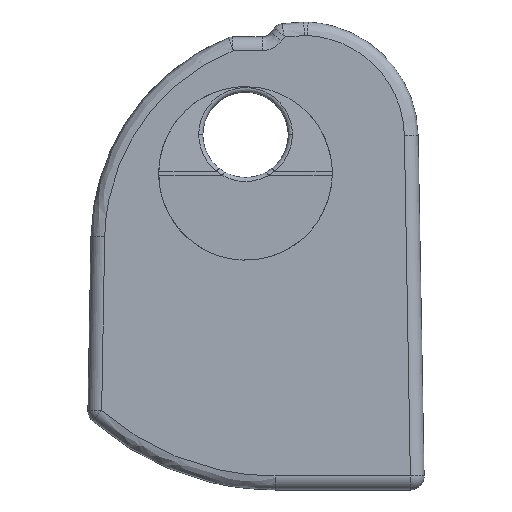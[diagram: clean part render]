
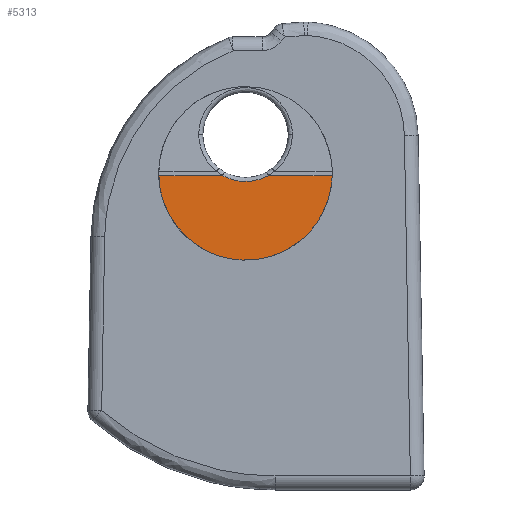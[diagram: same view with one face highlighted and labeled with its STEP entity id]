
A CAD part, front view. The second image highlights one B-rep face of the part: STEP entity #5313.
In plain terms, the highlighted planar face has unit normal (0, -1, 0.018).
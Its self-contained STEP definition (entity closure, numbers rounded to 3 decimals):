
#269=CARTESIAN_POINT('',(-3.149,-1.647,
-0.079));
#2103=CARTESIAN_POINT('',(0.833,-1.647,
-0.079));
#2134=CARTESIAN_POINT('',(0.833,-1.647,
-0.079));
#2135=CARTESIAN_POINT('',(0.748,-1.648,
-0.127));
#2136=CARTESIAN_POINT('',(0.572,-1.65,
-0.207));
#2137=CARTESIAN_POINT('',(0.298,-1.651,
-0.279));
#2138=CARTESIAN_POINT('',(0.018,-1.651,
-0.305));
#2139=CARTESIAN_POINT('',(-0.275,-1.651,
-0.284));
#2140=CARTESIAN_POINT('',(-0.567,-1.65,
-0.209));
#2141=CARTESIAN_POINT('',(-0.746,-1.648,
-0.128));
#2142=CARTESIAN_POINT('',(-0.833,-1.647,
-0.079));
#2147=DIRECTION('',(-1.,0.,0.));
#2148=VECTOR('',#2147,2.316);
#2149=CARTESIAN_POINT('',(3.149,-1.647,
-0.079));
#2150=LINE('',#2149,#2148);
#2154=CARTESIAN_POINT('',(3.149,-1.647,
-0.079));
#2155=CARTESIAN_POINT('',(3.148,-1.648,
-0.1));
#2156=CARTESIAN_POINT('',(3.147,-1.648,
-0.128));
#2157=CARTESIAN_POINT('',(3.145,-1.649,
-0.172));
#2158=CARTESIAN_POINT('',(3.143,-1.65,
-0.213));
#2159=CARTESIAN_POINT('',(3.14,-1.65,
-0.254));
#2160=CARTESIAN_POINT('',(3.136,-1.651,
-0.301));
#2161=CARTESIAN_POINT('',(3.131,-1.652,
-0.351));
#2162=CARTESIAN_POINT('',(3.124,-1.653,
-0.402));
#2163=CARTESIAN_POINT('',(3.118,-1.654,
-0.447));
#2164=CARTESIAN_POINT('',(3.11,-1.655,
-0.501));
#2165=CARTESIAN_POINT('',(3.1,-1.656,
-0.561));
#2166=CARTESIAN_POINT('',(3.088,-1.657,
-0.625));
#2167=CARTESIAN_POINT('',(3.075,-1.658,
-0.683));
#2168=CARTESIAN_POINT('',(3.063,-1.659,
-0.736));
#2169=CARTESIAN_POINT('',(3.047,-1.66,
-0.802));
#2170=CARTESIAN_POINT('',(3.026,-1.661,
-0.877));
#2171=CARTESIAN_POINT('',(3.001,-1.663,
-0.957));
#2172=CARTESIAN_POINT('',(2.977,-1.664,
-1.031));
#2173=CARTESIAN_POINT('',(2.944,-1.666,
-1.122));
#2174=CARTESIAN_POINT('',(2.903,-1.667,
-1.225));
#2175=CARTESIAN_POINT('',(2.854,-1.669,
-1.335));
#2176=CARTESIAN_POINT('',(2.805,-1.671,
-1.436));
#2177=CARTESIAN_POINT('',(2.755,-1.673,
-1.528));
#2178=CARTESIAN_POINT('',(2.706,-1.674,
-1.613));
#2179=CARTESIAN_POINT('',(2.641,-1.676,
-1.719));
#2180=CARTESIAN_POINT('',(2.559,-1.678,
-1.84));
#2181=CARTESIAN_POINT('',(2.46,-1.68,
-1.969));
#2182=CARTESIAN_POINT('',(2.362,-1.682,
-2.086));
#2183=CARTESIAN_POINT('',(2.263,-1.684,
-2.192));
#2184=CARTESIAN_POINT('',(2.165,-1.686,
-2.289));
#2185=CARTESIAN_POINT('',(2.067,-1.688,
-2.379));
#2186=CARTESIAN_POINT('',(1.935,-1.689,
-2.488));
#2187=CARTESIAN_POINT('',(1.771,-1.692,
-2.608));
#2188=CARTESIAN_POINT('',(1.575,-1.694,
-2.731));
#2189=CARTESIAN_POINT('',(1.378,-1.695,
-2.836));
#2190=CARTESIAN_POINT('',(1.181,-1.697,
-2.923));
#2191=CARTESIAN_POINT('',(0.984,-1.698,
-2.995));
#2192=CARTESIAN_POINT('',(0.722,-1.7,
-3.071));
#2193=CARTESIAN_POINT('',(0.394,-1.701,
-3.134));
#2194=CARTESIAN_POINT('',(0.,-1.701,-3.158));
#2195=CARTESIAN_POINT('',(-0.394,-1.701,
-3.134));
#2196=CARTESIAN_POINT('',(-0.722,-1.7,
-3.071));
#2197=CARTESIAN_POINT('',(-0.984,-1.698,
-2.995));
#2198=CARTESIAN_POINT('',(-1.181,-1.697,
-2.923));
#2199=CARTESIAN_POINT('',(-1.378,-1.695,
-2.836));
#2200=CARTESIAN_POINT('',(-1.575,-1.694,
-2.731));
#2201=CARTESIAN_POINT('',(-1.771,-1.692,
-2.608));
#2202=CARTESIAN_POINT('',(-1.935,-1.689,
-2.488));
#2203=CARTESIAN_POINT('',(-2.067,-1.688,
-2.379));
#2204=CARTESIAN_POINT('',(-2.165,-1.686,
-2.289));
#2205=CARTESIAN_POINT('',(-2.263,-1.684,
-2.192));
#2206=CARTESIAN_POINT('',(-2.362,-1.682,
-2.086));
#2207=CARTESIAN_POINT('',(-2.46,-1.68,
-1.969));
#2208=CARTESIAN_POINT('',(-2.559,-1.678,
-1.84));
#2209=CARTESIAN_POINT('',(-2.641,-1.676,
-1.719));
#2210=CARTESIAN_POINT('',(-2.706,-1.674,
-1.613));
#2211=CARTESIAN_POINT('',(-2.755,-1.673,
-1.528));
#2212=CARTESIAN_POINT('',(-2.805,-1.671,
-1.436));
#2213=CARTESIAN_POINT('',(-2.854,-1.669,
-1.335));
#2214=CARTESIAN_POINT('',(-2.903,-1.667,
-1.225));
#2215=CARTESIAN_POINT('',(-2.944,-1.666,
-1.122));
#2216=CARTESIAN_POINT('',(-2.977,-1.664,
-1.031));
#2217=CARTESIAN_POINT('',(-3.001,-1.663,
-0.957));
#2218=CARTESIAN_POINT('',(-3.026,-1.661,
-0.877));
#2219=CARTESIAN_POINT('',(-3.047,-1.66,
-0.802));
#2220=CARTESIAN_POINT('',(-3.063,-1.659,
-0.736));
#2221=CARTESIAN_POINT('',(-3.075,-1.658,
-0.683));
#2222=CARTESIAN_POINT('',(-3.088,-1.657,
-0.625));
#2223=CARTESIAN_POINT('',(-3.1,-1.656,
-0.561));
#2224=CARTESIAN_POINT('',(-3.11,-1.655,
-0.501));
#2225=CARTESIAN_POINT('',(-3.118,-1.654,
-0.447));
#2226=CARTESIAN_POINT('',(-3.124,-1.653,
-0.402));
#2227=CARTESIAN_POINT('',(-3.131,-1.652,
-0.351));
#2228=CARTESIAN_POINT('',(-3.136,-1.651,
-0.301));
#2229=CARTESIAN_POINT('',(-3.14,-1.65,
-0.254));
#2230=CARTESIAN_POINT('',(-3.143,-1.65,
-0.213));
#2231=CARTESIAN_POINT('',(-3.145,-1.649,
-0.172));
#2232=CARTESIAN_POINT('',(-3.147,-1.648,
-0.128));
#2233=CARTESIAN_POINT('',(-3.148,-1.648,
-0.1));
#2234=CARTESIAN_POINT('',(-3.149,-1.647,
-0.079));
#2239=DIRECTION('',(-1.,0.,0.));
#2240=VECTOR('',#2239,2.316);
#2241=CARTESIAN_POINT('',(-0.833,-1.647,
-0.079));
#2242=LINE('',#2241,#2240);
#2352=VERTEX_POINT('',#269);
#2357=VERTEX_POINT('',#2154);
#2405=VERTEX_POINT('',#2103);
#2407=VERTEX_POINT('',#2142);
#5302=CARTESIAN_POINT('',(-3.39,-1.55,5.5));
#5303=DIRECTION('',(0.,1.,-0.017));
#5304=DIRECTION('',(1.,0.,0.));
#5305=AXIS2_PLACEMENT_3D('',#5302,#5303,#5304);
#5306=PLANE('',#5305);
#5307=ORIENTED_EDGE('',*,*,#5294,.F.);
#5308=ORIENTED_EDGE('',*,*,#5190,.F.);
#5309=ORIENTED_EDGE('',*,*,#2530,.T.);
#5310=ORIENTED_EDGE('',*,*,#5201,.F.);
#5311=EDGE_LOOP('',(#5307,#5308,#5309,#5310));
#5312=FACE_OUTER_BOUND('',#5311,.F.);
#2143=B_SPLINE_CURVE_WITH_KNOTS('',3,(#2134,#2135,#2136,#2137,#2138,#2139,#2140,
#2141,#2142),.UNSPECIFIED.,.F.,.F.,(4,1,1,1,1,1,4),(0.,0.167,
0.333,0.5,0.667,0.833,1.),
.UNSPECIFIED.);
#2235=B_SPLINE_CURVE_WITH_KNOTS('',3,(#2154,#2155,#2156,#2157,#2158,#2159,#2160,
#2161,#2162,#2163,#2164,#2165,#2166,#2167,#2168,#2169,#2170,#2171,#2172,#2173,
#2174,#2175,#2176,#2177,#2178,#2179,#2180,#2181,#2182,#2183,#2184,#2185,#2186,
#2187,#2188,#2189,#2190,#2191,#2192,#2193,#2194,#2195,#2196,#2197,#2198,#2199,
#2200,#2201,#2202,#2203,#2204,#2205,#2206,#2207,#2208,#2209,#2210,#2211,#2212,
#2213,#2214,#2215,#2216,#2217,#2218,#2219,#2220,#2221,#2222,#2223,#2224,#2225,
#2226,#2227,#2228,#2229,#2230,#2231,#2232,#2233,#2234),.UNSPECIFIED.,.F.,.F.,(4,
1,1,1,1,1,1,1,1,1,1,1,1,1,1,1,1,1,1,1,1,1,1,1,1,1,1,1,1,1,1,1,1,1,1,1,1,1,1,1,1,
1,1,1,1,1,1,1,1,1,1,1,1,1,1,1,1,1,1,1,1,1,1,1,1,1,1,1,1,1,1,1,1,1,1,1,1,1,4),(
0.,0.,0.,0.001,0.001,0.002,
0.003,0.004,0.005,0.006,0.008,0.01,
0.012,0.014,0.016,0.02,0.023,0.027,0.031,
0.039,0.047,0.055,0.063,0.07,0.078,0.094,
0.109,0.125,0.141,0.156,0.172,0.188,0.219,0.25,
0.281,0.313,0.344,0.375,0.438,0.5,0.563,0.625,0.656,
0.688,0.719,0.75,0.781,0.813,0.828,0.844,0.859,
0.875,0.891,0.906,0.922,0.93,0.938,0.945,
0.953,0.961,0.969,0.973,0.977,0.98,
0.984,0.986,0.988,0.99,0.992,0.994,
0.995,0.996,0.997,0.998,0.999,
0.999,1.,1.,1.),.UNSPECIFIED.);
#2530=EDGE_CURVE('',#2357,#2352,#2235,.T.);
#5190=EDGE_CURVE('',#2357,#2405,#2150,.T.);
#5201=EDGE_CURVE('',#2407,#2352,#2242,.T.);
#5294=EDGE_CURVE('',#2405,#2407,#2143,.T.);
#5313=ADVANCED_FACE('',(#5312),#5306,.F.);
